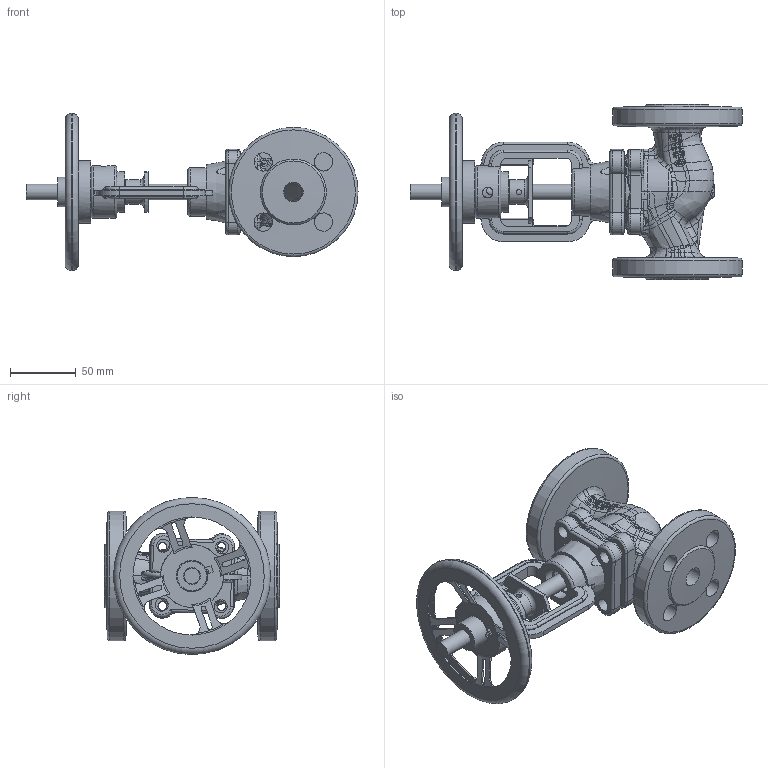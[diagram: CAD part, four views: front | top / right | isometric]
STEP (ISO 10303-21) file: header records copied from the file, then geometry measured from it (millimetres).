
FILE_DESCRIPTION(/* description */ ('STEP AP203'),/* implementation_level */ '2;1');
FILE_NAME(/* name */ '',/* time_stamp */ '2025-02-21T11:40:19+07:00',/* author */ ('Eva'),/* organization */ (''),/* preprocessor_version */ 'ST-DEVELOPER v20',/* originating_system */ 'Autodesk Inventor 2025',/* authorisation */ '');
FILE_SCHEMA (('AUTOMOTIVE_DESIGN { 1 0 10303 214 3 1 1 }'));
Products named in the file (7): 波纹管-15; 波纹管截止阀盖15-20; 波纹管15-20阀杆螺母; 波纹管15-20限位板; 波纹管阀杆（15-20）; 15; 15-20手轮
Assembly tree (6 placements, depth 2):
  波纹管-15
    波纹管截止阀盖15-20
    波纹管15-20阀杆螺母
    波纹管15-20限位板
    波纹管阀杆（15-20）
    15
    15-20手轮
Bounding box: 253.13 x 133.92 x 119.81 mm (x, y, z)
Volume: 505167.9 mm3; surface area: 148130.6 mm2
Topology: 6 solids, 6 shells, 1235 faces, 3254 edges, 2023 vertices
Faces by surface type: bspline 804, cylinder 188, plane 150, torus 59, cone 27, sphere 7
Full cylindrical faces by diameter (mm): 4 x3, 6 x1, 6.8 x4, 8 x1, 10 x6, 12 x3, 13 x2, 14 x8, 15 x2, 16.5 x1, 18.5 x1, 19 x1, 20 x1, 22.5 x1, 24 x2, 26 x2, 31 x1, 31.5 x1, 33 x1, 40 x2, 48 x1, 50 x1, 56.3 x1, 96.399 x1, 98.6 x2, 117.417 x1, 119.817 x1
Entity records: 76375 total; most frequent: CARTESIAN_POINT 50852, ORIENTED_EDGE 6484, DIRECTION 3433, EDGE_CURVE 3242, VERTEX_POINT 2023, B_SPLINE_CURVE_WITH_KNOTS 1526, AXIS2_PLACEMENT_3D 1321, EDGE_LOOP 1305
